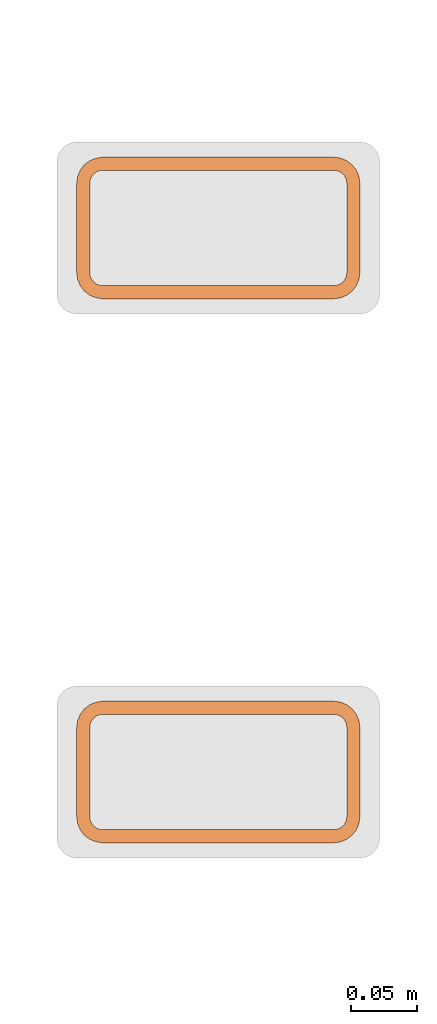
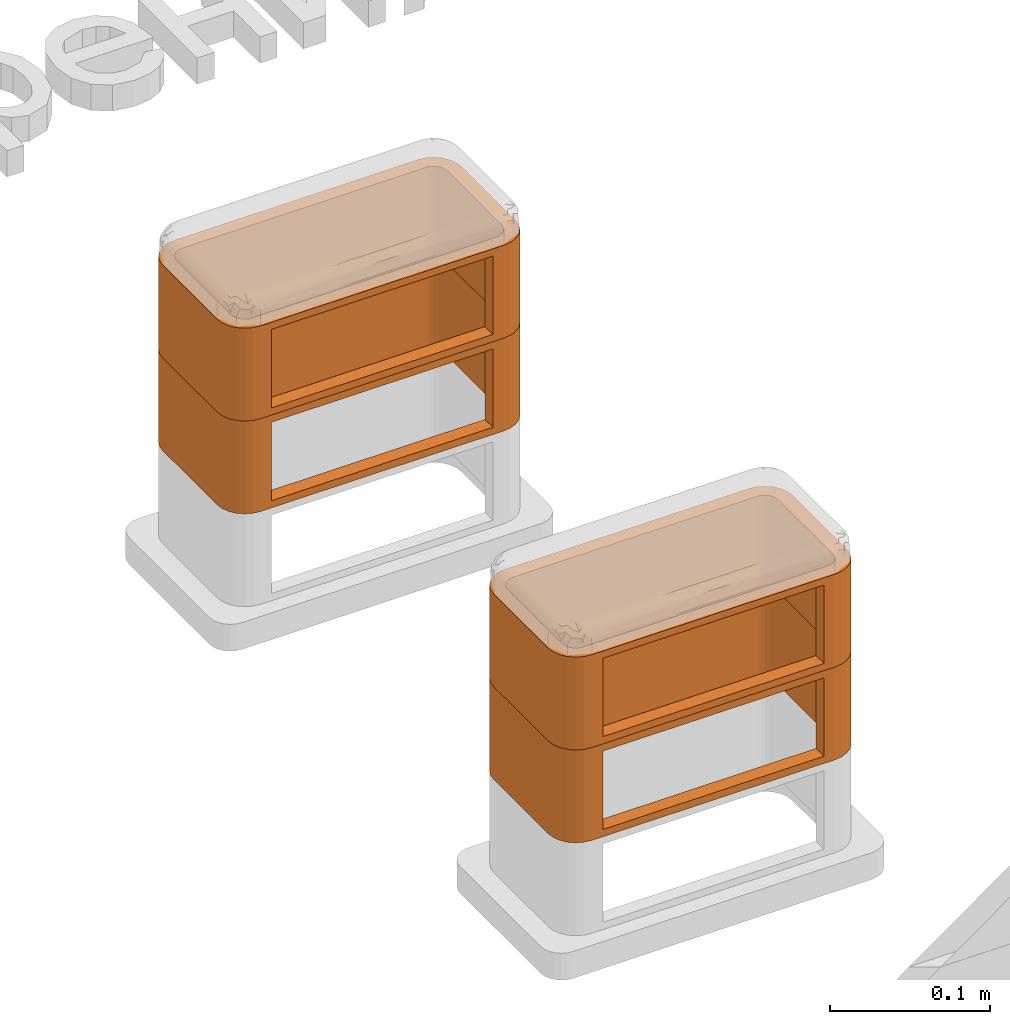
# One storey, part 54 of 87: 4 proxies.
"""IFC2X3 building model written with IfcOpenShell, lengths in millimetres."""

from ifc_helpers import new_model, entity, si_unit, converted_unit, derived_unit, direction, frame, origin, place, context, subcontext, project, spatial, faceted_brep, source, transform, mapped, material, type_object, type_shapes, element, save


model = new_model("IFC2X3")

# Units and contexts
model_context = context("Model", 3, precision=0.01, world=origin(), true_north=direction((6.12303176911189e-17, 1.0)))
body_context = subcontext(model_context, "Body", "Model", "MODEL_VIEW")
ifc_project = project(units=[si_unit("LENGTHUNIT", "METRE", prefix="MILLI"), si_unit("AREAUNIT", "SQUARE_METRE"), si_unit("VOLUMEUNIT", "CUBIC_METRE"), converted_unit("PLANEANGLEUNIT", "DEGREE", entity("IfcRatioMeasure", 0.0174532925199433), si_unit("PLANEANGLEUNIT", "RADIAN"), dimensions=[0, 0, 0, 0, 0, 0, 0]), si_unit("MASSUNIT", "GRAM", prefix="KILO"), derived_unit("MASSDENSITYUNIT", [(si_unit("MASSUNIT", "GRAM", prefix="KILO"), 1), (si_unit("LENGTHUNIT", "METRE"), -3)]), si_unit("TIMEUNIT", "SECOND"), si_unit("FREQUENCYUNIT", "HERTZ"), si_unit("THERMODYNAMICTEMPERATUREUNIT", "DEGREE_CELSIUS"), derived_unit("THERMALTRANSMITTANCEUNIT", [(si_unit("MASSUNIT", "GRAM", prefix="KILO"), 1), (si_unit("THERMODYNAMICTEMPERATUREUNIT", "KELVIN"), -1), (si_unit("TIMEUNIT", "SECOND"), -3)]), derived_unit("VOLUMETRICFLOWRATEUNIT", [(si_unit("LENGTHUNIT", "METRE"), 3), (si_unit("TIMEUNIT", "SECOND"), -1)]), si_unit("ELECTRICCURRENTUNIT", "AMPERE"), si_unit("ELECTRICVOLTAGEUNIT", "VOLT"), si_unit("POWERUNIT", "WATT"), si_unit("FORCEUNIT", "NEWTON", prefix="KILO"), si_unit("ILLUMINANCEUNIT", "LUX"), si_unit("LUMINOUSFLUXUNIT", "LUMEN"), si_unit("LUMINOUSINTENSITYUNIT", "CANDELA"), derived_unit("USERDEFINED", [(si_unit("MASSUNIT", "GRAM", prefix="KILO"), -1), (si_unit("LENGTHUNIT", "METRE"), -2), (si_unit("TIMEUNIT", "SECOND"), 3), (si_unit("LUMINOUSFLUXUNIT", "LUMEN"), 1)]), derived_unit("LINEARVELOCITYUNIT", [(si_unit("LENGTHUNIT", "METRE"), 1), (si_unit("TIMEUNIT", "SECOND"), -1)]), si_unit("PRESSUREUNIT", "PASCAL"), derived_unit("USERDEFINED", [(si_unit("LENGTHUNIT", "METRE"), -2), (si_unit("MASSUNIT", "GRAM", prefix="KILO"), 1), (si_unit("TIMEUNIT", "SECOND"), -2)])], contexts=[model_context])

# Site, building, storey
site_placement = place(None, origin())
site = spatial("IfcSite", under=ifc_project, at=site_placement, Name="Default", CompositionType="ELEMENT")
building_placement = place(site_placement, origin())
building = spatial("IfcBuilding", under=site, at=building_placement, Name="Наименование здания", CompositionType="ELEMENT")
storey_placement = place(building_placement, origin())
storey = spatial("IfcBuildingStorey", under=building, at=storey_placement, Name="Этаж 01", CompositionType="ELEMENT", Elevation=0.0)

# Proxies
ifc_material_1 = material(Name="DKC_Пластик_Серо-черный")
building_element_proxy_type_1 = type_object("IfcBuildingElementProxyType", Name="Вертикальное расширение напольной башенки BUS", PredefinedType="NOTDEFINED", material=ifc_material_1)
shared_shape_1 = source(origin(), body_context, "Body", "Brep", [
    faceted_brep([(96.660254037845, 39.0, 71.0), (97.6592582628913, 36.5881904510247, 71.0), (105.320508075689, 44.0, 71.0), (102.142135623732, 48.1421356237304, 71.0), (95.0710678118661, 41.071067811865, 71.0), (107.318516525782, 39.1763809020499, 71.0), (108.0, 34.0, 71.0), (98.0, 34.0, 71.0), (98.0, -34.0, 71.0), (108.0, -34.0, 71.0), (97.6592582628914, -36.5881904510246, 71.0), (107.318516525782, -39.17638090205, 71.0), (105.320508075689, -44.0, 71.0), (96.6602540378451, -39.0, 71.0), (102.142135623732, -48.1421356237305, 71.0), (95.0710678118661, -41.0710678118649, 71.0), (98.0, -51.3205080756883, 71.0), (93.0, -42.6602540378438, 71.0), (93.1763809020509, -53.3185165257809, 71.0), (90.5881904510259, -43.6592582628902, 71.0), (88.0, -54.0, 71.0), (88.0, -44.0, 71.0), (-88.0, -54.0, 71.0), (-88.0, -44.0, 71.0), (-90.5881904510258, -43.6592582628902, 71.0), (-93.1763809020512, -53.3185165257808, 71.0), (-93.0, -42.6602540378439, 71.0), (-98.0, -51.3205080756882, 71.0), (-95.0710678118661, -41.071067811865, 71.0), (-102.142135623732, -48.1421356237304, 71.0), (-96.660254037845, -39.0, 71.0), (-105.320508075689, -44.0, 71.0), (-97.6592582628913, -36.5881904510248, 71.0), (-107.318516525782, -39.1763809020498, 71.0), (-108.0, -34.0, 71.0), (-98.0, -34.0, 71.0), (-108.0, 34.0, 71.0), (-98.0, 34.0, 71.0), (-97.6592582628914, 36.5881904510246, 71.0), (-107.318516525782, 39.1763809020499, 71.0), (-105.320508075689, 44.0, 71.0), (-96.6602540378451, 39.0, 71.0), (-102.142135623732, 48.1421356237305, 71.0), (-95.0710678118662, 41.0710678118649, 71.0), (-98.0, 51.3205080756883, 71.0), (-93.0, 42.6602540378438, 71.0), (-93.176380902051, 53.3185165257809, 71.0), (-90.5881904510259, 43.6592582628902, 71.0), (-88.0, 54.0, 71.0), (-88.0, 44.0, 71.0), (88.0, 44.0, 71.0), (88.0, 54.0, 71.0), (90.5881904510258, 43.6592582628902, 71.0), (93.1763809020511, 53.3185165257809, 71.0), (93.0, 42.6602540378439, 71.0), (98.0, 51.3205080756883, 71.0), (-96.6602540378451, 39.0, 0.0), (-97.6592582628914, 36.5881904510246, 0.0), (-105.320508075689, 44.0, 0.0), (-102.142135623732, 48.1421356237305, 0.0), (-95.0710678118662, 41.0710678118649, 0.0), (-107.318516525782, 39.1763809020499, 0.0), (-108.0, 34.0, 0.0), (-98.0, 34.0, 0.0), (-98.0, -34.0, 0.0), (-108.0, -34.0, 0.0), (-97.6592582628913, -36.5881904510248, 0.0), (-107.318516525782, -39.1763809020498, 0.0), (-105.320508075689, -44.0, 0.0), (-96.660254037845, -39.0, 0.0), (-102.142135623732, -48.1421356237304, 0.0), (-95.0710678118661, -41.071067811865, 0.0), (-98.0, -51.3205080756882, 0.0), (-93.0, -42.6602540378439, 0.0), (-93.1763809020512, -53.3185165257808, 0.0), (-90.5881904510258, -43.6592582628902, 0.0), (-88.0, -54.0, 0.0), (-88.0, -44.0, 0.0), (88.0, -54.0, 0.0), (88.0, -44.0, 0.0), (90.5881904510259, -43.6592582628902, 0.0), (93.1763809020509, -53.3185165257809, 0.0), (93.0, -42.6602540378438, 0.0), (98.0, -51.3205080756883, 0.0), (95.0710678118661, -41.0710678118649, 0.0), (102.142135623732, -48.1421356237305, 0.0), (96.6602540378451, -39.0, 0.0), (105.320508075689, -44.0, 0.0), (97.6592582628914, -36.5881904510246, 0.0), (107.318516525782, -39.17638090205, 0.0), (108.0, -34.0, 0.0), (98.0, -34.0, 0.0), (108.0, 34.0, 0.0), (98.0, 34.0, 0.0), (97.6592582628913, 36.5881904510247, 0.0), (107.318516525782, 39.1763809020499, 0.0), (105.320508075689, 44.0, 0.0), (96.660254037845, 39.0, 0.0), (102.142135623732, 48.1421356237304, 0.0), (95.0710678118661, 41.071067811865, 0.0), (98.0, 51.3205080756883, 0.0), (93.0, 42.6602540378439, 0.0), (93.1763809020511, 53.3185165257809, 0.0), (90.5881904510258, 43.6592582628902, 0.0), (88.0, 54.0, 0.0), (88.0, 44.0, 0.0), (-88.0, 44.0, 0.0), (-88.0, 54.0, 0.0), (-90.5881904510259, 43.6592582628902, 0.0), (-93.176380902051, 53.3185165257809, 0.0), (-93.0, 42.6602540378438, 0.0), (-98.0, 51.3205080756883, 0.0), (-80.0, -54.0, 65.5000000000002), (80.0, -54.0, 65.5000000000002), (-80.0, -54.0, 5.49999999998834), (80.0, -54.0, 5.49999999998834), (80.0, -44.0, 65.5000000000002), (-80.0, -44.0, 65.5000000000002), (80.0, -44.0, 5.49999999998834), (-80.0, -44.0, 5.49999999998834)], [[[0, 1, 2]], [[3, 0, 2]], [[0, 3, 4]], [[5, 2, 1]], [[6, 5, 1]], [[1, 7, 6]], [[6, 7, 8]], [[8, 9, 6]], [[9, 8, 10]], [[9, 10, 11]], [[11, 10, 12]], [[13, 12, 10]], [[14, 12, 13]], [[15, 14, 13]], [[14, 15, 16]], [[17, 16, 15]], [[17, 18, 16]], [[19, 18, 17]], [[18, 19, 20]], [[21, 20, 19]], [[20, 21, 22]], [[23, 22, 21]], [[22, 23, 24]], [[24, 25, 22]], [[25, 24, 26]], [[25, 26, 27]], [[27, 26, 28]], [[28, 29, 27]], [[28, 30, 29]], [[29, 30, 31]], [[30, 32, 31]], [[33, 31, 32]], [[32, 34, 33]], [[32, 35, 34]], [[34, 35, 36]], [[37, 36, 35]], [[37, 38, 36]], [[39, 36, 38]], [[38, 40, 39]], [[41, 40, 38]], [[42, 40, 41]], [[42, 41, 43]], [[42, 43, 44]], [[43, 45, 44]], [[44, 45, 46]], [[45, 47, 46]], [[47, 48, 46]], [[47, 49, 48]], [[48, 49, 50]], [[50, 51, 48]], [[52, 51, 50]], [[52, 53, 51]], [[52, 54, 53]], [[55, 54, 4]], [[55, 53, 54]], [[3, 55, 4]], [[56, 57, 58]], [[59, 56, 58]], [[56, 59, 60]], [[61, 58, 57]], [[62, 61, 57]], [[57, 63, 62]], [[62, 63, 64]], [[64, 65, 62]], [[65, 64, 66]], [[65, 66, 67]], [[67, 66, 68]], [[69, 68, 66]], [[70, 68, 69]], [[71, 70, 69]], [[70, 71, 72]], [[73, 72, 71]], [[73, 74, 72]], [[75, 74, 73]], [[74, 75, 76]], [[77, 76, 75]], [[76, 77, 78]], [[79, 78, 77]], [[78, 79, 80]], [[80, 81, 78]], [[81, 80, 82]], [[81, 82, 83]], [[83, 82, 84]], [[84, 85, 83]], [[84, 86, 85]], [[85, 86, 87]], [[86, 88, 87]], [[89, 87, 88]], [[88, 90, 89]], [[88, 91, 90]], [[90, 91, 92]], [[93, 92, 91]], [[93, 94, 92]], [[95, 92, 94]], [[94, 96, 95]], [[97, 96, 94]], [[98, 96, 97]], [[98, 97, 99]], [[98, 99, 100]], [[99, 101, 100]], [[100, 101, 102]], [[101, 103, 102]], [[103, 104, 102]], [[103, 105, 104]], [[104, 105, 106]], [[106, 107, 104]], [[108, 107, 106]], [[108, 109, 107]], [[108, 110, 109]], [[111, 110, 60]], [[111, 109, 110]], [[59, 111, 60]], [[48, 51, 104, 107]], [[46, 109, 111, 44]], [[44, 111, 59, 42]], [[107, 109, 46, 48]], [[40, 58, 61, 39]], [[39, 61, 62, 36]], [[42, 59, 58, 40]], [[34, 36, 62, 65]], [[33, 67, 68, 31]], [[31, 68, 70, 29]], [[65, 67, 33, 34]], [[27, 72, 74, 25]], [[25, 74, 76, 22]], [[29, 70, 72, 27]], [[22, 112, 113]], [[112, 22, 114]], [[113, 20, 22]], [[76, 114, 22]], [[114, 76, 115]], [[78, 115, 76]], [[115, 78, 20]], [[20, 113, 115]], [[18, 81, 83, 16]], [[16, 83, 85, 14]], [[78, 81, 18, 20]], [[12, 87, 89, 11]], [[11, 89, 90, 9]], [[14, 85, 87, 12]], [[6, 9, 90, 92]], [[96, 98, 3, 2]], [[6, 92, 95, 5]], [[95, 96, 2, 5]], [[55, 100, 102, 53]], [[53, 102, 104, 51]], [[3, 98, 100, 55]], [[52, 50, 105, 103]], [[54, 52, 103, 101]], [[99, 4, 54, 101]], [[94, 93, 7, 1]], [[94, 1, 0, 97]], [[97, 0, 4, 99]], [[8, 7, 93, 91]], [[10, 8, 91, 88]], [[13, 10, 88, 86]], [[84, 15, 13, 86]], [[79, 21, 19, 80]], [[80, 19, 17, 82]], [[82, 17, 15, 84]], [[21, 116, 117]], [[116, 21, 118]], [[117, 23, 21]], [[79, 118, 21]], [[118, 79, 119]], [[77, 119, 79]], [[119, 77, 23]], [[23, 117, 119]], [[75, 73, 26, 24]], [[77, 75, 24, 23]], [[71, 28, 26, 73]], [[64, 35, 32, 66]], [[69, 66, 32, 30]], [[69, 30, 28, 71]], [[37, 35, 64, 63]], [[57, 56, 41, 38]], [[63, 57, 38, 37]], [[60, 43, 41, 56]], [[108, 106, 49, 47]], [[110, 108, 47, 45]], [[110, 45, 43, 60]], [[50, 49, 106, 105]], [[116, 113, 112, 117]], [[117, 112, 114, 119]], [[118, 119, 114, 115]], [[118, 115, 113, 116]]]),
])
type_shapes(building_element_proxy_type_1, [shared_shape_1])
for number, where in (
    (1, (28063.7191062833, 1040.05717242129, 91.5000000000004)),
    (2, (28063.7191062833, 1040.05717242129, 162.5)),
):
    element("IfcBuildingElementProxy", number, at=place(storey_placement, frame(where)), inside=storey, type_object=building_element_proxy_type_1, material=ifc_material_1, Name="Вертикальное расширение напольной башенки BUS:Вертикальное расширение напольной башенки BUS", ObjectType="Вертикальное расширение напольной башенки BUS", context=body_context, shape_type="MappedRepresentation", body=[
        mapped(shared_shape_1, transform((0.0, 0.0, 0.0), scale=1.0)),
    ])
ifc_material_2 = material(Name="DKC_Пластик_СерыйМеталлик")
building_element_proxy_type_2 = type_object("IfcBuildingElementProxyType", Name="Вертикальное расширение напольной башенки BUS", PredefinedType="NOTDEFINED", material=ifc_material_2)
shared_shape_2 = source(origin(), body_context, "Body", "Brep", [
    faceted_brep([(96.660254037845, 39.0, 71.0), (97.6592582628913, 36.5881904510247, 71.0), (105.320508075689, 44.0, 71.0), (102.142135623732, 48.1421356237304, 71.0), (95.0710678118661, 41.071067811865, 71.0), (107.318516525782, 39.1763809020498, 71.0), (108.0, 34.0, 71.0), (98.0, 34.0, 71.0), (98.0, -34.0, 71.0), (108.0, -34.0, 71.0), (97.6592582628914, -36.5881904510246, 71.0), (107.318516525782, -39.17638090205, 71.0), (105.320508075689, -44.0, 71.0), (96.6602540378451, -39.0, 71.0), (102.142135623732, -48.1421356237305, 71.0), (95.0710678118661, -41.0710678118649, 71.0), (98.0, -51.3205080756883, 71.0), (93.0, -42.6602540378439, 71.0), (93.1763809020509, -53.3185165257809, 71.0), (90.5881904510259, -43.6592582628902, 71.0), (88.0, -54.0, 71.0), (88.0, -44.0, 71.0), (-88.0, -54.0, 71.0), (-88.0, -44.0, 71.0), (-90.5881904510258, -43.6592582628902, 71.0), (-93.1763809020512, -53.3185165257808, 71.0), (-93.0, -42.6602540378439, 71.0), (-98.0, -51.3205080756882, 71.0), (-95.0710678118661, -41.071067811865, 71.0), (-102.142135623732, -48.1421356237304, 71.0), (-96.660254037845, -39.0, 71.0), (-105.320508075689, -44.0, 71.0), (-97.6592582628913, -36.5881904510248, 71.0), (-107.318516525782, -39.1763809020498, 71.0), (-108.0, -34.0, 71.0), (-98.0, -34.0, 71.0), (-108.0, 34.0, 71.0), (-98.0, 34.0, 71.0), (-97.6592582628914, 36.5881904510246, 71.0), (-107.318516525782, 39.1763809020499, 71.0), (-105.320508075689, 44.0, 71.0), (-96.6602540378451, 39.0, 71.0), (-102.142135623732, 48.1421356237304, 71.0), (-95.0710678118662, 41.0710678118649, 71.0), (-98.0, 51.3205080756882, 71.0), (-93.0, 42.6602540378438, 71.0), (-93.1763809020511, 53.3185165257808, 71.0), (-90.5881904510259, 43.6592582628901, 71.0), (-88.0, 54.0, 71.0), (-88.0, 44.0, 71.0), (88.0, 44.0, 71.0), (88.0, 54.0, 71.0), (90.5881904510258, 43.6592582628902, 71.0), (93.1763809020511, 53.3185165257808, 71.0), (93.0, 42.6602540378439, 71.0), (98.0, 51.3205080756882, 71.0), (-96.6602540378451, 39.0, 0.0), (-97.6592582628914, 36.5881904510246, 0.0), (-105.320508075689, 44.0, 0.0), (-102.142135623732, 48.1421356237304, 0.0), (-95.0710678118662, 41.0710678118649, 0.0), (-107.318516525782, 39.1763809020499, 0.0), (-108.0, 34.0, 0.0), (-98.0, 34.0, 0.0), (-98.0, -34.0, 0.0), (-108.0, -34.0, 0.0), (-97.6592582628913, -36.5881904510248, 0.0), (-107.318516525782, -39.1763809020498, 0.0), (-105.320508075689, -44.0, 0.0), (-96.660254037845, -39.0, 0.0), (-102.142135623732, -48.1421356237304, 0.0), (-95.0710678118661, -41.071067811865, 0.0), (-98.0, -51.3205080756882, 0.0), (-93.0, -42.6602540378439, 0.0), (-93.1763809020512, -53.3185165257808, 0.0), (-90.5881904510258, -43.6592582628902, 0.0), (-88.0, -54.0, 0.0), (-88.0, -44.0, 0.0), (88.0, -54.0, 0.0), (88.0, -44.0, 0.0), (90.5881904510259, -43.6592582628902, 0.0), (93.1763809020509, -53.3185165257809, 0.0), (93.0, -42.6602540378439, 0.0), (98.0, -51.3205080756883, 0.0), (95.0710678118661, -41.0710678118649, 0.0), (102.142135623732, -48.1421356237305, 0.0), (96.6602540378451, -39.0, 0.0), (105.320508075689, -44.0, 0.0), (97.6592582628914, -36.5881904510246, 0.0), (107.318516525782, -39.17638090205, 0.0), (108.0, -34.0, 0.0), (98.0, -34.0, 0.0), (108.0, 34.0, 0.0), (98.0, 34.0, 0.0), (97.6592582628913, 36.5881904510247, 0.0), (107.318516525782, 39.1763809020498, 0.0), (105.320508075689, 44.0, 0.0), (96.660254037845, 39.0, 0.0), (102.142135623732, 48.1421356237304, 0.0), (95.0710678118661, 41.071067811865, 0.0), (98.0, 51.3205080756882, 0.0), (93.0, 42.6602540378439, 0.0), (93.1763809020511, 53.3185165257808, 0.0), (90.5881904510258, 43.6592582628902, 0.0), (88.0, 54.0, 0.0), (88.0, 44.0, 0.0), (-88.0, 44.0, 0.0), (-88.0, 54.0, 0.0), (-90.5881904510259, 43.6592582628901, 0.0), (-93.1763809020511, 53.3185165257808, 0.0), (-93.0, 42.6602540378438, 0.0), (-98.0, 51.3205080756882, 0.0), (-80.0, -54.0, 65.5000000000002), (80.0, -54.0, 65.5000000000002), (-80.0, -54.0, 5.49999999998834), (80.0, -54.0, 5.49999999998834), (80.0, -44.0, 65.5000000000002), (-80.0, -44.0, 65.5000000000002), (80.0, -44.0, 5.49999999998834), (-80.0, -44.0, 5.49999999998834)], [[[0, 1, 2]], [[3, 0, 2]], [[0, 3, 4]], [[5, 2, 1]], [[6, 5, 1]], [[1, 7, 6]], [[6, 7, 8]], [[8, 9, 6]], [[9, 8, 10]], [[9, 10, 11]], [[11, 10, 12]], [[13, 12, 10]], [[14, 12, 13]], [[15, 14, 13]], [[14, 15, 16]], [[17, 16, 15]], [[17, 18, 16]], [[19, 18, 17]], [[18, 19, 20]], [[21, 20, 19]], [[20, 21, 22]], [[23, 22, 21]], [[22, 23, 24]], [[24, 25, 22]], [[25, 24, 26]], [[25, 26, 27]], [[27, 26, 28]], [[28, 29, 27]], [[28, 30, 29]], [[29, 30, 31]], [[30, 32, 31]], [[33, 31, 32]], [[32, 34, 33]], [[32, 35, 34]], [[34, 35, 36]], [[37, 36, 35]], [[37, 38, 36]], [[39, 36, 38]], [[38, 40, 39]], [[41, 40, 38]], [[42, 40, 41]], [[42, 41, 43]], [[42, 43, 44]], [[43, 45, 44]], [[44, 45, 46]], [[45, 47, 46]], [[47, 48, 46]], [[47, 49, 48]], [[48, 49, 50]], [[50, 51, 48]], [[52, 51, 50]], [[52, 53, 51]], [[52, 54, 53]], [[55, 54, 4]], [[55, 53, 54]], [[3, 55, 4]], [[56, 57, 58]], [[59, 56, 58]], [[56, 59, 60]], [[61, 58, 57]], [[62, 61, 57]], [[57, 63, 62]], [[62, 63, 64]], [[64, 65, 62]], [[65, 64, 66]], [[65, 66, 67]], [[67, 66, 68]], [[69, 68, 66]], [[70, 68, 69]], [[71, 70, 69]], [[70, 71, 72]], [[73, 72, 71]], [[73, 74, 72]], [[75, 74, 73]], [[74, 75, 76]], [[77, 76, 75]], [[76, 77, 78]], [[79, 78, 77]], [[78, 79, 80]], [[80, 81, 78]], [[81, 80, 82]], [[81, 82, 83]], [[83, 82, 84]], [[84, 85, 83]], [[84, 86, 85]], [[85, 86, 87]], [[86, 88, 87]], [[89, 87, 88]], [[88, 90, 89]], [[88, 91, 90]], [[90, 91, 92]], [[93, 92, 91]], [[93, 94, 92]], [[95, 92, 94]], [[94, 96, 95]], [[97, 96, 94]], [[98, 96, 97]], [[98, 97, 99]], [[98, 99, 100]], [[99, 101, 100]], [[100, 101, 102]], [[101, 103, 102]], [[103, 104, 102]], [[103, 105, 104]], [[104, 105, 106]], [[106, 107, 104]], [[108, 107, 106]], [[108, 109, 107]], [[108, 110, 109]], [[111, 110, 60]], [[111, 109, 110]], [[59, 111, 60]], [[48, 51, 104, 107]], [[46, 109, 111, 44]], [[44, 111, 59, 42]], [[107, 109, 46, 48]], [[40, 58, 61, 39]], [[39, 61, 62, 36]], [[42, 59, 58, 40]], [[34, 36, 62, 65]], [[33, 67, 68, 31]], [[31, 68, 70, 29]], [[65, 67, 33, 34]], [[27, 72, 74, 25]], [[25, 74, 76, 22]], [[29, 70, 72, 27]], [[22, 112, 113]], [[112, 22, 114]], [[113, 20, 22]], [[76, 114, 22]], [[114, 76, 115]], [[78, 115, 76]], [[115, 78, 20]], [[20, 113, 115]], [[18, 81, 83, 16]], [[16, 83, 85, 14]], [[78, 81, 18, 20]], [[12, 87, 89, 11]], [[11, 89, 90, 9]], [[14, 85, 87, 12]], [[6, 9, 90, 92]], [[96, 98, 3, 2]], [[6, 92, 95, 5]], [[95, 96, 2, 5]], [[55, 100, 102, 53]], [[53, 102, 104, 51]], [[3, 98, 100, 55]], [[52, 50, 105, 103]], [[54, 52, 103, 101]], [[99, 4, 54, 101]], [[94, 93, 7, 1]], [[94, 1, 0, 97]], [[97, 0, 4, 99]], [[8, 7, 93, 91]], [[88, 86, 13, 10]], [[91, 88, 10, 8]], [[15, 13, 86, 84]], [[79, 21, 19, 80]], [[82, 80, 19, 17]], [[82, 17, 15, 84]], [[21, 116, 117]], [[116, 21, 118]], [[117, 23, 21]], [[79, 118, 21]], [[118, 79, 119]], [[77, 119, 79]], [[119, 77, 23]], [[23, 117, 119]], [[75, 73, 26, 24]], [[77, 75, 24, 23]], [[71, 28, 26, 73]], [[64, 35, 32, 66]], [[69, 66, 32, 30]], [[69, 30, 28, 71]], [[37, 35, 64, 63]], [[57, 56, 41, 38]], [[63, 57, 38, 37]], [[60, 43, 41, 56]], [[108, 106, 49, 47]], [[110, 108, 47, 45]], [[110, 45, 43, 60]], [[50, 49, 106, 105]], [[116, 113, 112, 117]], [[117, 112, 114, 119]], [[118, 119, 114, 115]], [[118, 115, 113, 116]]]),
])
type_shapes(building_element_proxy_type_2, [shared_shape_2])
for number, where in (
    (3, (28063.7191062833, 625.208776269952, 91.5000000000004)),
    (4, (28063.7191062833, 625.208776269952, 162.5)),
):
    element("IfcBuildingElementProxy", number, at=place(storey_placement, frame(where)), inside=storey, type_object=building_element_proxy_type_2, material=ifc_material_2, Name="Вертикальное расширение напольной башенки BUS:Вертикальное расширение напольной башенки BUS", ObjectType="Вертикальное расширение напольной башенки BUS", context=body_context, shape_type="MappedRepresentation", body=[
        mapped(shared_shape_2, transform((0.0, 0.0, 0.0), scale=1.0)),
    ])

save(model, "model.ifc")
